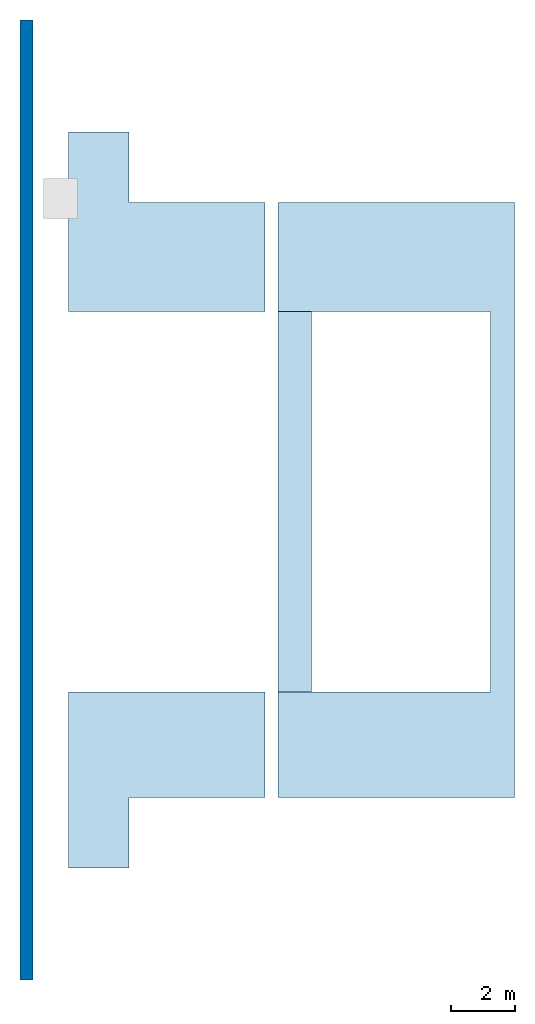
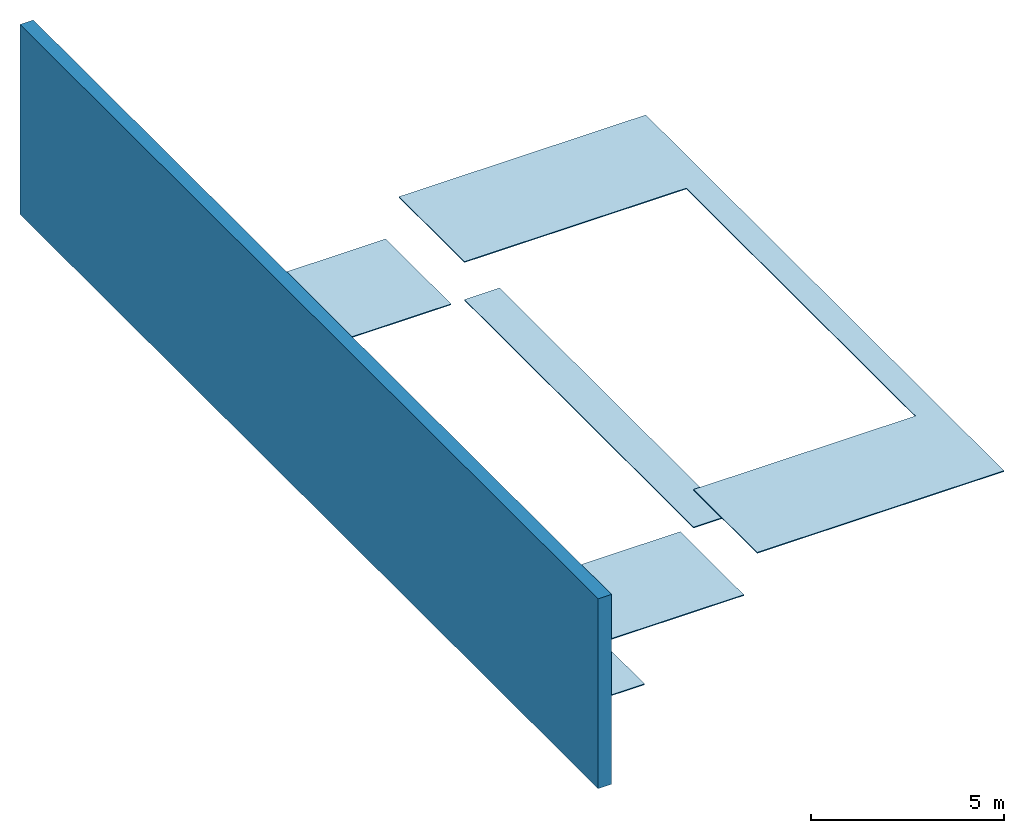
# One storey, part 1 of 2: 4 slabs, 1 wall.
"""IFC2X3 building model written with IfcOpenShell, lengths in millimetres."""

from ifc_helpers import new_model, entity, si_unit, converted_unit, direction, frame, frame_2d, origin, origin_2d_with_axis, place, context, subcontext, project, spatial, polyline, rectangle, outline, extrude, material, layer, layer_set, layer_usage, type_object, element, save


model = new_model("IFC2X3")

# Units and contexts
model_context = context("Model", 3, precision=0.01, world=origin(), true_north=direction((6.123233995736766e-17, 1.0)))
body_context = subcontext(model_context, "Body", "Model", "MODEL_VIEW")
ifc_project = project(units=[si_unit("LENGTHUNIT", "METRE", prefix="MILLI"), si_unit("AREAUNIT", "SQUARE_METRE"), converted_unit("PLANEANGLEUNIT", "DEGREE", entity("IfcPlaneAngleMeasure", 0.017453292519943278), si_unit("PLANEANGLEUNIT", "RADIAN"), dimensions=[0, 0, 0, 0, 0, 0, 0])], contexts=[model_context])

# Site, building, storey
site_placement = place(None, origin())
site = spatial("IfcSite", under=ifc_project, at=site_placement, Name="Default", CompositionType="ELEMENT")
building_placement = place(site_placement, origin())
building = spatial("IfcBuilding", under=site, at=building_placement, CompositionType="ELEMENT")
storey_placement = place(building_placement, frame((0.0, 0.0, 17070.0)))
storey = spatial("IfcBuildingStorey", under=building, at=storey_placement, Name="5e verdieping", CompositionType="ELEMENT", Elevation=17070.0)

# Slabs
ifc_material_1 = material(Name="Roostervloer dicht")
ifc_layer_1 = layer(ifc_material_1, 30.0)
ifc_layer_set_1 = layer_set([ifc_layer_1], Name="Floor:NL_23 Rooster bruggen")
ifc_layer_usage_1 = layer_usage(ifc_layer_set_1, "AXIS3", "POSITIVE", 0.0)
slab_type = type_object("IfcSlabType", Name="Floor:NL_23 Rooster bruggen", PredefinedType="FLOOR", material=ifc_layer_set_1)
slab_1_placement = place(storey_placement, origin())
element("IfcSlab", 1, at=slab_1_placement, inside=storey, type_object=slab_type, material=ifc_layer_usage_1, Name="Floor:NL_23 Rooster bruggen", ObjectType="Floor:NL_23 Rooster bruggen", PredefinedType="FLOOR", context=body_context, shape_type="SweptSolid", body=[
    extrude(outline(polyline([(-3001.8333333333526, -2683.333333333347), (2603.666666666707, -2683.333333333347), (2603.666666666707, -783.3333333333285), (398.1666666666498, -783.3333333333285), (398.1666666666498, 3466.6666666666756), (-3001.8333333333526, 3466.6666666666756), (-3001.8333333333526, -2683.333333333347)])), frame((29072.578264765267, 33433.00124023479, 0.0), z_axis=(0.0, 0.0, -1.0), x_axis=(0.0, 1.0, 0.0)), (0.0, 0.0, 1.0), 29.999999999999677),
])
ifc_layer_usage_2 = layer_usage(ifc_layer_set_1, "AXIS3", "POSITIVE", 0.0)
slab_2_placement = place(storey_placement, origin())
element("IfcSlab", 2, at=slab_2_placement, inside=storey, type_object=slab_type, material=ifc_layer_usage_2, Name="Floor:NL_23 Rooster bruggen", ObjectType="Floor:NL_23 Rooster bruggen", PredefinedType="FLOOR", context=body_context, shape_type="SweptSolid", body=[
    extrude(outline(polyline([(-2570.3333333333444, -2683.333333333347), (2935.166666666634, -2683.333333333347), (2935.166666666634, 3466.6666666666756), (-364.8333333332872, 3466.6666666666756), (-364.8333333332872, -783.3333333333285), (-2570.3333333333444, -783.3333333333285), (-2570.3333333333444, -2683.333333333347)])), frame((29072.578264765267, 15596.001240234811, 0.0), z_axis=(0.0, 0.0, -1.0), x_axis=(0.0, 1.0, 0.0)), (0.0, 0.0, 1.0), 29.999999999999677),
])
ifc_layer_usage_3 = layer_usage(ifc_layer_set_1, "AXIS3", "POSITIVE", 0.0)
slab_3_placement = place(storey_placement, origin())
element("IfcSlab", 3, at=slab_3_placement, inside=storey, type_object=slab_type, material=ifc_layer_usage_3, Name="Floor:NL_23 Rooster bruggen", ObjectType="Floor:NL_23 Rooster bruggen", PredefinedType="FLOOR", context=body_context, shape_type="SweptSolid", body=[
    extrude(rectangle(XDim=11899.999999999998, YDim=1050.0000000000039, at=origin_2d_with_axis()), frame((33464.244931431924, 24481.167906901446, 0.0), z_axis=(0.0, 0.0, -1.0), x_axis=(0.0, 1.0, 0.0)), (0.0, 0.0, 1.0), 29.999999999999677),
])
ifc_layer_usage_4 = layer_usage(ifc_layer_set_1, "AXIS3", "POSITIVE", 0.0)
slab_4_placement = place(storey_placement, origin())
element("IfcSlab", 4, at=slab_4_placement, inside=storey, type_object=slab_type, material=ifc_layer_usage_4, Name="Floor:NL_23 Rooster bruggen", ObjectType="Floor:NL_23 Rooster bruggen", PredefinedType="FLOOR", context=body_context, shape_type="SweptSolid", body=[
    extrude(outline(polyline([(-9275.0, -3512.5000000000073), (-5975.0, -3512.5000000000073), (-5975.0, 3137.500000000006), (5925.0, 3137.500000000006), (5925.0, -3512.5000000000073), (9325.0, -3512.5000000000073), (9325.0, 3887.5000000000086), (-9275.0, 3887.5000000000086), (-9275.0, -3512.5000000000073)])), frame((36451.744931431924, 24506.16790690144, 1200.0), z_axis=(0.0, 0.0, -1.0), x_axis=(0.0, 1.0, 0.0)), (0.0, 0.0, 1.0), 29.999999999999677),
])

# Wall
ifc_material_2 = material(Name="NL_20_wand")
ifc_layer_2 = layer(ifc_material_2, 400.0)
ifc_layer_set_2 = layer_set([ifc_layer_2], Name="Basic Wall:AL_20_basis_400")
ifc_layer_usage_5 = layer_usage(ifc_layer_set_2, "AXIS2", "NEGATIVE", 200.0)
wall_type = type_object("IfcWallType", Name="Basic Wall:AL_20_basis_400", PredefinedType="STANDARD", material=ifc_layer_set_2)
wall_placement = place(storey_placement, frame((25074.24493143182, 39542.16790690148, 0.0), z_axis=(0.0, 0.0, 1.0), x_axis=(0.0, -1.0, 0.0)))
element("IfcWallStandardCase", 5, at=wall_placement, inside=storey, type_object=wall_type, material=ifc_layer_usage_5, Name="Basic Wall:AL_20_basis_400", ObjectType="Basic Wall:AL_20_basis_400", context=body_context, shape_type="SweptSolid", body=[
    extrude(rectangle(XDim=30021.999999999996, YDim=399.9999999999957, at=frame_2d((15010.999999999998, 0.0), x_axis=(-1.0, 0.0))), origin(), (0.0, 0.0, 1.0), 6020.0),
])

save(model, "model.ifc")
